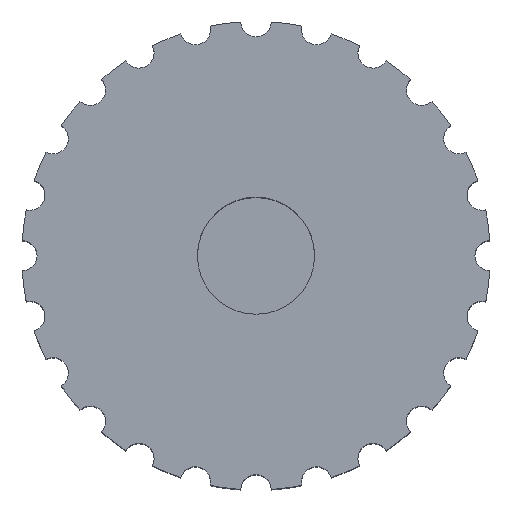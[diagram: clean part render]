
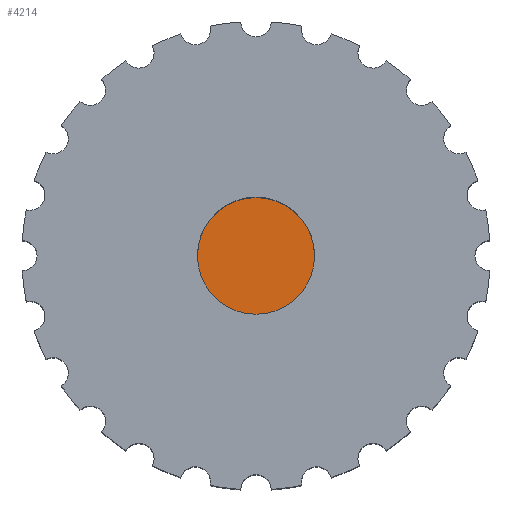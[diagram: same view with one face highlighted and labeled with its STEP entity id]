
A CAD part, top view. The second image highlights one B-rep face of the part: STEP entity #4214.
In plain terms, the highlighted planar face has unit normal (0, 0, 1).
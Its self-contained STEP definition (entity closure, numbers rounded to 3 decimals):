
#1554 = CYLINDRICAL_SURFACE('',#1555,2.5);
#1555 = AXIS2_PLACEMENT_3D('',#1556,#1557,#1558);
#1556 = CARTESIAN_POINT('',(0.,0.,3.));
#1557 = DIRECTION('',(0.,0.,1.));
#1558 = DIRECTION('',(1.,0.,-0.));
#3964 = VERTEX_POINT('',#3965);
#3965 = CARTESIAN_POINT('',(2.5,0.,3.));
#3986 = EDGE_CURVE('',#3964,#3964,#3987,.T.);
#3987 = SURFACE_CURVE('',#3988,(#3993,#4000),.PCURVE_S1.);
#3988 = CIRCLE('',#3989,2.5);
#3989 = AXIS2_PLACEMENT_3D('',#3990,#3991,#3992);
#3990 = CARTESIAN_POINT('',(0.,0.,3.));
#3991 = DIRECTION('',(0.,0.,1.));
#3992 = DIRECTION('',(1.,0.,-0.));
#3993 = PCURVE('',#1554,#3994);
#3994 = DEFINITIONAL_REPRESENTATION('',(#3995),#3999);
#3995 = LINE('',#3996,#3997);
#3996 = CARTESIAN_POINT('',(0.,0.));
#3997 = VECTOR('',#3998,1.);
#3998 = DIRECTION('',(1.,0.));
#3999 = ( GEOMETRIC_REPRESENTATION_CONTEXT(2)
PARAMETRIC_REPRESENTATION_CONTEXT() REPRESENTATION_CONTEXT('2D SPACE',''
  ) );
#4000 = PCURVE('',#4001,#4006);
#4001 = PLANE('',#4002);
#4002 = AXIS2_PLACEMENT_3D('',#4003,#4004,#4005);
#4003 = CARTESIAN_POINT('',(0.,0.,3.));
#4004 = DIRECTION('',(0.,0.,1.));
#4005 = DIRECTION('',(1.,0.,-0.));
#4006 = DEFINITIONAL_REPRESENTATION('',(#4007),#4011);
#4007 = CIRCLE('',#4008,2.5);
#4008 = AXIS2_PLACEMENT_2D('',#4009,#4010);
#4009 = CARTESIAN_POINT('',(0.,0.));
#4010 = DIRECTION('',(1.,0.));
#4011 = ( GEOMETRIC_REPRESENTATION_CONTEXT(2)
PARAMETRIC_REPRESENTATION_CONTEXT() REPRESENTATION_CONTEXT('2D SPACE',''
  ) );
#4214 = ADVANCED_FACE('',(#4215),#4001,.T.);
#4215 = FACE_BOUND('',#4216,.F.);
#4216 = EDGE_LOOP('',(#4217));
#4217 = ORIENTED_EDGE('',*,*,#3986,.F.);
